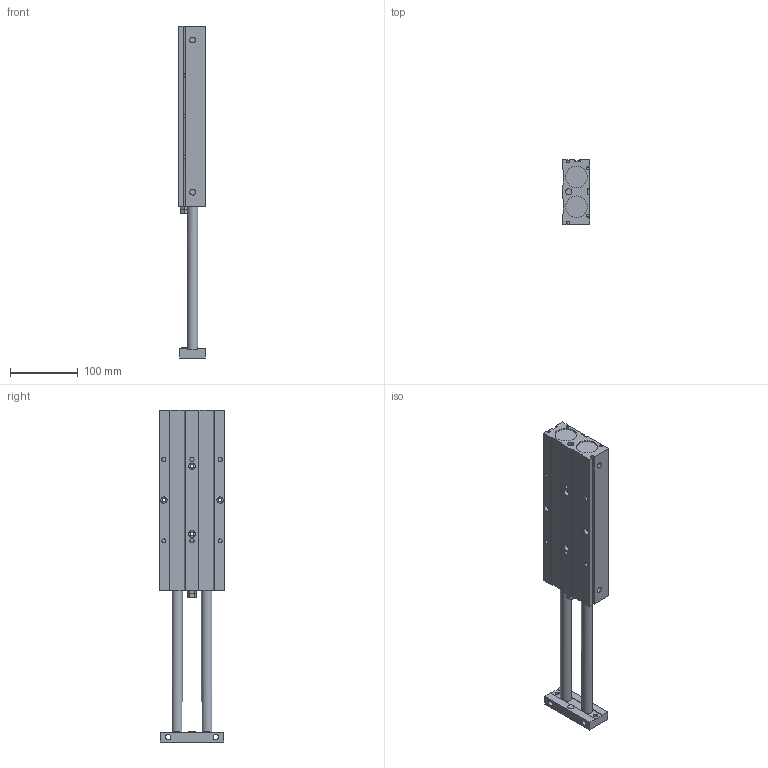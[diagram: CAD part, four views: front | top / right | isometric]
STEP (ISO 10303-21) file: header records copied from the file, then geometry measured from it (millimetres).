
FILE_DESCRIPTION((''),'2;1');
FILE_NAME('I:\3D電子目錄\氣缸\TD\TD32\TD32\TD32x200.stp','2007-08-06T10:24:00',('Administrator'),(''),'Autodesk Inventor 2008','Autodesk Inventor 2008','');
FILE_SCHEMA(('AUTOMOTIVE_DESIGN { 1 0 10303 214 1 1 1 1 }'));
Length unit declared in the file: millimetre
Products named in the file (1): TD32X200
Bounding box: 40.5 x 96 x 490 mm (x, y, z)
Volume: 1098740.8 mm3; surface area: 137037.4 mm2
Topology: 1 solids, 3 shells, 186 faces, 458 edges, 304 vertices
Faces by surface type: plane 131, cylinder 42, cone 7, bspline 4, torus 2
Full cylindrical faces by diameter (mm): 5.5 x4, 6 x8, 8 x2, 8.5 x2, 9 x2, 9.5 x8, 12 x2, 13 x2, 14 x2, 16 x2, 32 x4
Entity records: 6069 total; most frequent: CARTESIAN_POINT 1782, DIRECTION 851, ORIENTED_EDGE 802, EDGE_CURVE 401, EDGE_LOOP 297, AXIS2_PLACEMENT_3D 295, VERTEX_POINT 294, VECTOR 261
